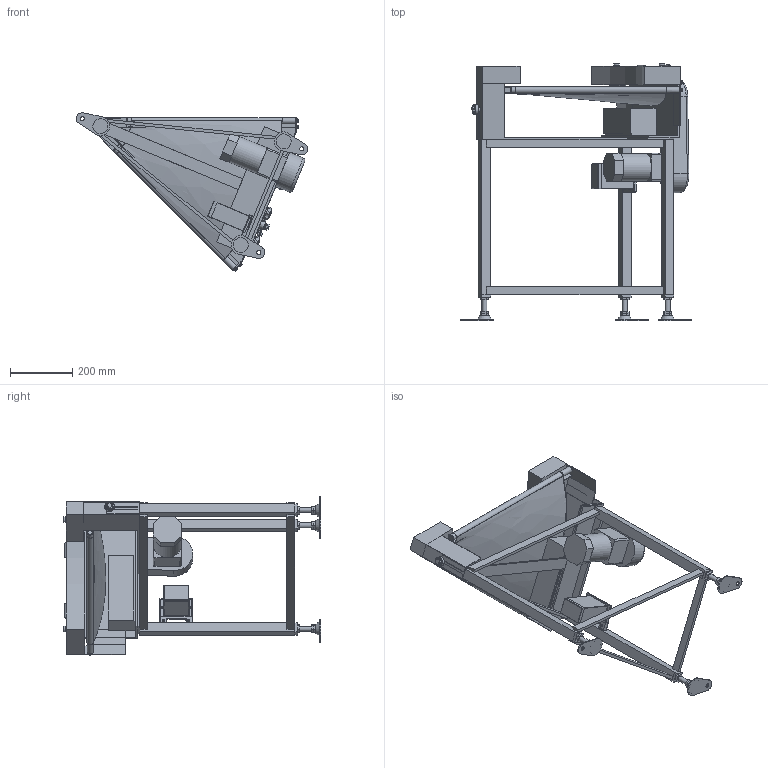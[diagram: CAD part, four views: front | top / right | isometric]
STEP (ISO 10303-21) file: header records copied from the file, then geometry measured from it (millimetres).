
FILE_DESCRIPTION (( 'STEP AP214' ), '1' );
FILE_NAME ('GBC45-UD400-R.STEP', '2022-12-05T07:30:17', ( '' ), ( '' ), 'SwSTEP 2.0', 'SolidWorks 2017', '' );
FILE_SCHEMA (( 'AUTOMOTIVE_DESIGN' ));
Length unit declared in the file: millimetre
Products named in the file (1): GBC45-UD400-R
Bounding box: 742.93 x 827.92 x 509.2 mm (x, y, z)
Volume: 13669537.5 mm3; surface area: 2487450.9 mm2
Topology: 56 solids, 56 shells, 896 faces, 2057 edges, 1328 vertices
Faces by surface type: plane 584, cylinder 185, bspline 63, cone 49, torus 8, sphere 7
Full cylindrical faces by diameter (mm): 4.2 x4, 4.5 x2, 5 x4, 6 x13, 6.4 x4, 7 x3, 8 x1, 9 x2, 10 x6, 12 x1, 12.2 x2, 12.5 x7, 13 x7, 15 x4, 16 x10, 18 x2, 18.4 x1, 20 x6, 21 x1, 22.2 x1, 25 x1, 30 x1, 89 x1
Entity records: 32650 total; most frequent: CARTESIAN_POINT 12741, ORIENTED_EDGE 3812, DIRECTION 3758, EDGE_CURVE 1906, VERTEX_POINT 1298, AXIS2_PLACEMENT_3D 1266, VECTOR 1226, LINE 1226
